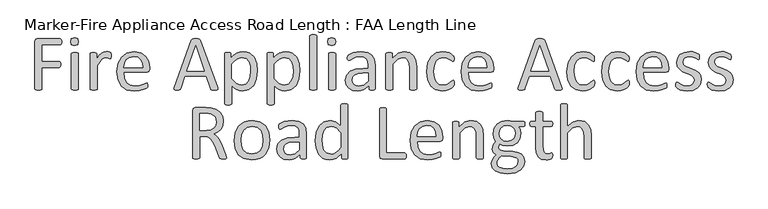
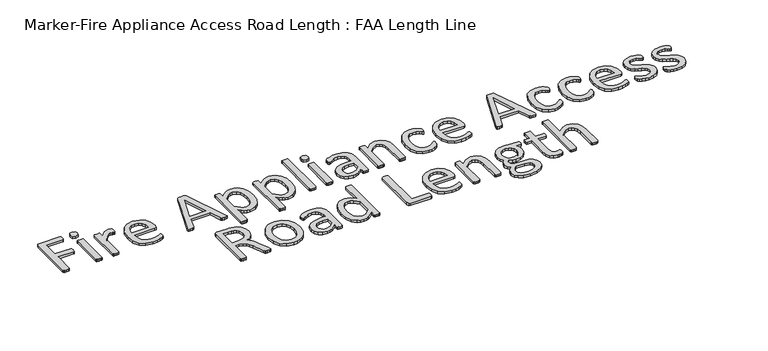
"""IFC4 building model written with IfcOpenShell, lengths in millimetres: proxy geometry, Marker-Fire Appliance Access Road Length : FAA Length Line."""

from ifc_helpers import new_model, si_unit, origin, origin_with_axes, place, context, project, spatial, polyline, outline, extrude, source, transform, mapped, element, save


def marker_fire_appliance_access_road_length_faa_length_line_315c61b4(model_context):
    return source(origin(), model_context, "Body", "SweptSolid", [
        extrude(outline(polyline([(3062.6370513, 223.7082635), (3062.3354764, 218.4910177), (3061.2799642, 214.9324338), (3059.5308298, 212.9420395), (3057.449963, 212.3087322), (2985.433876, 212.3087322), (2985.433876, 146.6860331), (3053.4691742, 146.6860331), (3055.5500411, 146.1130408), (3057.2991755, 144.2432764), (3058.3546877, 140.775165), (3058.6562626, 135.1658718), (3058.3546877, 129.9184685), (3057.2991755, 126.3598846), (3055.5500411, 124.2488603), (3053.4691742, 123.5250805), (2985.433876, 123.5250805), (2985.433876, 39.6872573), (2984.8005687, 37.6063905), (2982.5990719, 36.0683585), (2978.5278107, 35.1334763), (2971.9233203, 34.7414289), (2965.4696174, 35.1334763), (2961.2475687, 36.0683585), (2959.0460719, 37.6063905), (2958.4127646, 39.6872573), (2958.4127646, 224.6733032), (2961.5491436, 233.087243), (2968.2441065, 235.4696848), (3057.449963, 235.4696848), (3059.4705148, 234.8363775), (3061.2498068, 232.7856681), (3062.3354764, 229.0461393), (3062.6370513, 223.7082635)])), origin_with_axes(), (0.0, 0.0, 1.0), 10.0),
        extrude(outline(polyline([(3128.2597503, 224.0701534), (3124.9424264, 211.7357399), (3112.6381703, 208.4485734), (3100.6354892, 211.6452674), (3097.3784802, 223.7082635), (3100.6958042, 236.0426771), (3113.0000602, 239.3298435), (3125.0027414, 236.1331496), (3128.2597503, 224.0701534)])), origin_with_axes(), (0.0, 0.0, 1.0), 10.0),
        extrude(outline(polyline([(3128.2597503, 39.4459974), (3127.5962856, 37.3952881), (3125.4551037, 35.9477285), (3121.3838425, 35.0430038), (3114.6888797, 34.7414289), (3108.1145468, 35.0430038), (3103.9528131, 35.9477285), (3101.8116313, 37.3952881), (3101.238639, 39.4459974), (3101.238639, 176.7228935), (3101.8116313, 178.6831304), (3103.9528131, 180.2211624), (3108.1145468, 181.1258871), (3114.6888797, 181.427462), (3121.3838425, 181.1258871), (3125.4551037, 180.2211624), (3127.5962856, 178.6831304), (3128.2597503, 176.7228935), (3128.2597503, 39.4459974)])), origin_with_axes(), (0.0, 0.0, 1.0), 10.0),
        extrude(outline(polyline([(3255.6449896, 169.8469857), (3255.4942022, 164.3583225), (3254.8910524, 160.7997386), (3253.7752252, 158.7791868), (3251.9054608, 158.0855645), (3248.9801843, 158.7791868), (3245.089868, 160.1664313), (3240.2345121, 161.4933609), (3234.4141164, 162.1266682), (3227.0556888, 160.4680062), (3219.4861587, 155.039658), (3211.1928488, 145.0273712), (3201.6027669, 129.7375235), (3201.6027669, 39.4459974), (3200.9393021, 37.3952881), (3198.7981203, 35.9477285), (3194.7268591, 35.0430038), (3188.0318962, 34.7414289), (3181.4575633, 35.0430038), (3177.2958297, 35.9477285), (3175.1546479, 37.3952881), (3174.5816555, 39.4459974), (3174.5816555, 176.7228935), (3175.0641754, 178.7736029), (3177.0244123, 180.2814774), (3180.7940986, 181.1862021), (3186.8859116, 181.427462), (3192.8570947, 181.1862021), (3196.5363085, 180.2814774), (3198.4362304, 178.7736029), (3199.0092227, 176.7228935), (3199.0092227, 156.6983199), (3209.4437144, 170.9929704), (3218.7020639, 179.7084851), (3227.3271062, 184.0813212), (3235.9823059, 185.2876208), (3240.3852995, 185.0765184), (3245.5723879, 184.2622661), (3250.4579013, 182.9051791), (3253.5339653, 181.427462), (3254.7402649, 180.0402175), (3255.2830998, 178.3212405), (3255.5846747, 175.275334), (3255.6449896, 169.8469857)])), origin_with_axes(), (0.0, 0.0, 1.0), 10.0),
        extrude(outline(polyline([(3406.1911815, 115.2619282), (3403.20559, 106.7575159), (3396.3598397, 104.2242867), (3305.8270536, 104.2242867), (3308.0888654, 81.9077438), (3315.5980805, 64.8989193), (3329.2895811, 53.9819078), (3349.9173045, 50.182064), (3367.0467591, 51.9613559), (3380.0747949, 55.9723021), (3389.0918845, 59.9832483), (3394.4297603, 61.7625403), (3396.2995247, 61.2498629), (3397.5962968, 59.7419884), (3398.2597616, 56.9373418), (3398.470864, 52.5343482), (3398.3200766, 49.3074967), (3397.9280292, 46.86474), (3397.1740919, 44.9045032), (3395.8170049, 43.2458412), (3390.9013339, 40.3205646), (3380.3160548, 36.1588309), (3365.2373096, 32.5097746), (3346.9618705, 30.8812701), (3317.4980024, 35.7064686), (3296.2369717, 50.061434), (3283.2089358, 73.9763239), (3278.8059422, 107.3606657), (3283.4200383, 139.9307553), (3296.7194915, 164.4186375), (3317.7091048, 179.88943), (3345.273051, 185.2876208), (3373.0179421, 180.070375), (3391.8663736, 166.0169845), (3402.7230702, 145.2987886), (3406.1911815, 119.9061817), (3406.1911815, 115.2619282)]), holes=[polyline([(3379.1700702, 123.5250805), (3377.2173727, 141.2350668), (3370.5148704, 154.6777681), (3359.2284297, 163.1595622), (3343.5239166, 165.986827), (3327.4499742, 162.4885581), (3315.8996554, 153.1698936), (3308.6920152, 139.6291804), (3305.8270536, 123.5250805), (3379.1700702, 123.5250805)])]), origin_with_axes(), (0.0, 0.0, 1.0), 10.0),
        extrude(outline(polyline([(3671.3358368, 45.1759206), (3672.6326089, 39.6872573), (3671.4866243, 36.4604059), (3667.3852056, 35.0430038), (3659.7553605, 34.7414289), (3652.0652005, 34.9826888), (3647.7526794, 35.7667836), (3645.6114976, 37.2445006), (3644.2544105, 39.5666274), (3627.124956, 88.7836516), (3543.9505975, 88.7836516), (3527.6052378, 40.2300921), (3526.3386232, 37.8174929), (3524.1069689, 36.0683585), (3519.9452352, 35.0430038), (3512.8883825, 34.7414289), (3505.5601123, 35.1334763), (3501.5491661, 36.6111933), (3500.4634964, 39.8078873), (3501.790426, 45.2965505), (3568.8606846, 229.9810215), (3570.4590316, 232.7253531), (3573.4144656, 234.3840151), (3578.360294, 235.2284248), (3585.9901391, 235.4696848), (3594.1929765, 235.2284248), (3599.4705373, 234.3840151), (3602.5466013, 232.6650382), (3604.2655783, 229.8603916), (3671.3358368, 45.1759206)]), holes=[polyline([(3585.2663593, 208.4485734), (3550.6455604, 108.0844455), (3620.1887332, 108.0844455), (3585.2663593, 208.4485734)])]), origin_with_axes(), (0.0, 0.0, 1.0), 10.0),
        extrude(outline(polyline([(3826.9484871, 110.1954698), (3823.0883283, 77.1127029), (3811.749112, 52.2026158), (3793.2022554, 36.4302484), (3767.900121, 30.8812701), (3756.7116921, 32.1177272), (3746.6390903, 36.038201), (3736.8680634, 42.7633213), (3726.5843592, 52.2930883), (3726.5843592, -18.1548092), (3725.9208944, -20.356306), (3723.7797126, -21.9244955), (3719.7084514, -22.8593777), (3713.0134885, -23.1609526), (3706.4391556, -22.8593777), (3702.2774219, -21.9244955), (3700.1362401, -20.356306), (3699.5632478, -18.2151242), (3699.5632478, 176.6022636), (3700.0457677, 178.8640754), (3702.0060045, 180.3417924), (3705.7756908, 181.1862021), (3711.384984, 181.427462), (3717.0244347, 181.2163596), (3720.7036486, 180.4322649), (3722.7543579, 179.0450203), (3723.3273502, 176.9038385), (3723.3273502, 159.3521791), (3735.2998739, 170.7517104), (3746.9105077, 178.8037604), (3758.9131889, 183.6591163), (3771.8809097, 185.2876208), (3785.6327253, 183.8023644), (3797.2132016, 179.3465952), (3814.2823412, 163.1218654), (3823.9025806, 139.176818), (3826.9484871, 110.1954698)]), holes=[polyline([(3799.9273757, 107.2400357), (3798.3591862, 127.6868142), (3792.9609955, 145.2384736), (3782.6772913, 157.5125722), (3766.6335064, 162.1266682), (3757.1640544, 160.7092662), (3747.7247599, 156.1856426), (3737.6823156, 148.0431202), (3726.5843592, 135.6483917), (3726.5843592, 79.7364045), (3745.9153105, 60.6467131), (3755.2867506, 55.6933453), (3765.1256319, 54.0422227), (3781.1091018, 58.6563188), (3791.9054833, 70.9304173), (3797.9671389, 88.0900294), (3799.9273757, 107.2400357)])]), origin_with_axes(), (0.0, 0.0, 1.0), 10.0),
        extrude(outline(polyline([(3992.9353141, 110.1954698), (3989.0751553, 77.1127029), (3977.7359389, 52.2026158), (3959.1890824, 36.4302484), (3933.8869479, 30.8812701), (3922.698519, 32.1177272), (3912.6259172, 36.038201), (3902.8548904, 42.7633213), (3892.5711861, 52.2930883), (3892.5711861, -18.1548092), (3891.9077214, -20.356306), (3889.7665395, -21.9244955), (3885.6952783, -22.8593777), (3879.0003155, -23.1609526), (3872.4259826, -22.8593777), (3868.2642489, -21.9244955), (3866.1230671, -20.356306), (3865.5500748, -18.2151242), (3865.5500748, 176.6022636), (3866.0325946, 178.8640754), (3867.9928315, 180.3417924), (3871.7625178, 181.1862021), (3877.371811, 181.427462), (3883.0112617, 181.2163596), (3886.6904755, 180.4322649), (3888.7411849, 179.0450203), (3889.3141772, 176.9038385), (3889.3141772, 159.3521791), (3901.2867009, 170.7517104), (3912.8973347, 178.8037604), (3924.9000158, 183.6591163), (3937.8677367, 185.2876208), (3951.6195523, 183.8023644), (3963.2000286, 179.3465952), (3980.2691681, 163.1218654), (3989.8894076, 139.176818), (3992.9353141, 110.1954698)]), holes=[polyline([(3965.9142027, 107.2400357), (3964.3460132, 127.6868142), (3958.9478224, 145.2384736), (3948.6641182, 157.5125722), (3932.6203334, 162.1266682), (3923.1508814, 160.7092662), (3913.7115869, 156.1856426), (3903.6691426, 148.0431202), (3892.5711861, 135.6483917), (3892.5711861, 79.7364045), (3911.9021375, 60.6467131), (3921.2735776, 55.6933453), (3931.1124588, 54.0422227), (3947.0959287, 58.6563188), (3957.8923103, 70.9304173), (3963.9539658, 88.0900294), (3965.9142027, 107.2400357)])]), origin_with_axes(), (0.0, 0.0, 1.0), 10.0),
        extrude(outline(polyline([(4058.5580131, 39.5063124), (4057.8945483, 37.455603), (4055.7533665, 35.977886), (4051.6821053, 35.0430038), (4044.9871425, 34.7414289), (4038.4128096, 35.0430038), (4034.2510759, 35.977886), (4032.1098941, 37.455603), (4031.5369017, 39.5063124), (4031.5369017, 245.9644914), (4032.1098941, 248.1358307), (4034.2510759, 249.6738627), (4038.4128096, 250.6087449), (4044.9871425, 250.9103198), (4051.6821053, 250.6087449), (4055.7533665, 249.6738627), (4057.8945483, 248.1358307), (4058.5580131, 245.9644914), (4058.5580131, 39.5063124)])), origin_with_axes(), (0.0, 0.0, 1.0), 10.0),
        extrude(outline(polyline([(4131.9010297, 224.0701534), (4128.5837057, 211.7357399), (4116.2794497, 208.4485734), (4104.2767685, 211.6452674), (4101.0197595, 223.7082635), (4104.3370835, 236.0426771), (4116.6413396, 239.3298435), (4128.6440207, 236.1331496), (4131.9010297, 224.0701534)])), origin_with_axes(), (0.0, 0.0, 1.0), 10.0),
        extrude(outline(polyline([(4131.9010297, 39.4459974), (4131.2375649, 37.3952881), (4129.0963831, 35.9477285), (4125.0251219, 35.0430038), (4118.330159, 34.7414289), (4111.7558261, 35.0430038), (4107.5940924, 35.9477285), (4105.4529106, 37.3952881), (4104.8799183, 39.4459974), (4104.8799183, 176.7228935), (4105.4529106, 178.6831304), (4107.5940924, 180.2211624), (4111.7558261, 181.1258871), (4118.330159, 181.427462), (4125.0251219, 181.1258871), (4129.0963831, 180.2211624), (4131.2375649, 178.6831304), (4131.9010297, 176.7228935), (4131.9010297, 39.4459974)])), origin_with_axes(), (0.0, 0.0, 1.0), 10.0),
        extrude(outline(polyline([(4286.3073803, 39.3856824), (4284.9804508, 36.5810358), (4281.3615519, 35.1937913), (4274.6062741, 34.7414289), (4267.7605238, 35.1937913), (4264.0511525, 36.5810358), (4262.9051678, 39.3856824), (4262.9051678, 53.258128), (4242.5790193, 37.2143431), (4231.0287005, 32.4645384), (4218.8149169, 30.8812701), (4198.8808158, 33.7462317), (4183.7115981, 42.0395416), (4173.9707287, 55.3691523), (4170.5026173, 73.3430166), (4175.2976583, 93.789795), (4189.0494739, 108.2050754), (4210.9739694, 116.7999602), (4240.1664201, 119.6649218), (4259.286269, 119.6649218), (4259.286269, 131.1850831), (4257.5974495, 146.2638283), (4252.1691013, 157.1808398), (4242.4885468, 163.7551727), (4227.862164, 165.986827), (4211.1247569, 163.5742277), (4198.157036, 158.2665094), (4188.8383715, 152.9587911), (4183.2893933, 150.5461919), (4181.118054, 151.1794992), (4179.519707, 153.1095786), (4178.5245098, 156.4269025), (4178.2229349, 160.8600536), (4178.7657697, 167.1931266), (4181.4196289, 171.6262777), (4188.6574265, 176.1499012), (4200.4791628, 180.6132098), (4215.1055456, 183.9606912), (4231.119173, 185.2876208), (4256.7530398, 181.8798244), (4273.8523368, 171.9278526), (4283.3519463, 155.6729653), (4286.3073803, 132.9945325), (4286.3073803, 39.3856824)]), holes=[polyline([(4259.286269, 100.3641279), (4237.8141358, 100.3641279), (4219.9005866, 98.584836), (4207.2645981, 93.3374327), (4199.876013, 85.0139653), (4197.5237287, 73.8255364), (4199.2125482, 64.084667), (4204.2790066, 56.5754519), (4212.3913715, 51.780411), (4223.2179105, 50.182064), (4241.5536646, 55.2786798), (4259.286269, 70.8701024), (4259.286269, 100.3641279)])]), origin_with_axes(), (0.0, 0.0, 1.0), 10.0),
        extrude(outline(polyline([(4448.4340486, 39.5063124), (4447.7705838, 37.455603), (4445.6294019, 35.977886), (4441.5581407, 35.0430038), (4434.9838078, 34.7414289), (4428.288845, 35.0430038), (4424.2175838, 35.9477285), (4422.076402, 37.3952881), (4421.4129372, 39.5063124), (4421.4129372, 120.0871266), (4419.6336453, 139.0260306), (4414.4767144, 151.4207591), (4405.7008847, 159.3823366), (4393.2458412, 162.1266682), (4374.9402445, 155.4015478), (4355.7902382, 135.6483917), (4355.7902382, 39.5063124), (4355.1267734, 37.3952881), (4352.9855915, 35.9477285), (4348.9143303, 35.0430038), (4342.2193675, 34.7414289), (4335.6450346, 35.0430038), (4331.4833009, 35.9477285), (4329.3421191, 37.3952881), (4328.7691268, 39.4459974), (4328.7691268, 176.7228935), (4329.2516466, 178.7736029), (4331.2118835, 180.2814774), (4334.9815698, 181.1862021), (4341.0733829, 181.427462), (4347.0445659, 181.1862021), (4350.7237798, 180.2814774), (4352.6237017, 178.7736029), (4353.196694, 176.7228935), (4353.196694, 158.5680843), (4376.2671741, 178.8640754), (4399.4582842, 185.2876208), (4422.4986068, 180.5830523), (4437.637667, 168.0073788), (4445.9309769, 149.5811522), (4448.4340486, 124.1885453), (4448.4340486, 39.5063124)])), origin_with_axes(), (0.0, 0.0, 1.0), 10.0),
        extrude(outline(polyline([(4595.1200817, 62.48632), (4594.9692942, 58.2642714), (4594.4264594, 55.2485223), (4593.5217347, 52.8057656), (4591.1091355, 49.1868668), (4584.625275, 43.3061562), (4574.3415708, 37.0635557), (4561.9468423, 32.6002471), (4548.0743967, 30.8812701), (4521.8976951, 35.8874135), (4502.8080037, 50.5137964), (4491.0767399, 74.0969538), (4487.0356362, 106.335311), (4491.9814646, 142.0719371), (4505.5221778, 166.5296618), (4525.7578538, 180.6735248), (4550.9695158, 185.2876208), (4563.6959767, 183.9305337), (4575.0351931, 180.3719499), (4584.2633852, 175.3054915), (4590.1139383, 170.3898206), (4592.61701, 167.1629691), (4593.7629946, 164.5995824), (4594.3661444, 161.4330459), (4594.5169319, 156.9998948), (4593.1598448, 148.9780024), (4589.8726784, 146.6860331), (4584.6554325, 149.0986324), (4577.2065324, 154.4063507), (4566.2593634, 159.714069), (4551.1504607, 162.1266682), (4535.2800814, 158.6283993), (4523.616672, 148.1335927), (4516.4467287, 130.9739807), (4514.0567476, 107.4812957), (4516.5296618, 84.1393981), (4523.8277745, 67.3718335), (4535.6796682, 57.3293892), (4551.7536105, 54.0422227), (4566.8021982, 57.0881293), (4578.0207846, 63.7830921), (4586.0125196, 70.3875825), (4591.078978, 73.3430166), (4592.8582699, 72.7700243), (4594.155042, 70.8399449), (4594.9089793, 67.401991), (4595.1200817, 62.48632)])), origin_with_axes(), (0.0, 0.0, 1.0), 10.0),
        extrude(outline(polyline([(4749.5264324, 115.2619282), (4746.5408408, 106.7575159), (4739.6950905, 104.2242867), (4649.1623044, 104.2242867), (4651.4241162, 81.9077438), (4658.9333313, 64.8989193), (4672.6248319, 53.9819078), (4693.2525553, 50.182064), (4710.3820099, 51.9613559), (4723.4100457, 55.9723021), (4732.4271353, 59.9832483), (4737.7650111, 61.7625403), (4739.6347755, 61.2498629), (4740.9315476, 59.7419884), (4741.5950124, 56.9373418), (4741.8061148, 52.5343482), (4741.6553274, 49.3074967), (4741.26328, 46.86474), (4740.5093427, 44.9045032), (4739.1522557, 43.2458412), (4734.2365847, 40.3205646), (4723.6513056, 36.1588309), (4708.5725604, 32.5097746), (4690.2971213, 30.8812701), (4660.8332532, 35.7064686), (4639.5722225, 50.061434), (4626.5441866, 73.9763239), (4622.1411931, 107.3606657), (4626.7552891, 139.9307553), (4640.0547423, 164.4186375), (4661.0443556, 179.88943), (4688.6083018, 185.2876208), (4716.353193, 180.070375), (4735.2016244, 166.0169845), (4746.058321, 145.2987886), (4749.5264324, 119.9061817), (4749.5264324, 115.2619282)]), holes=[polyline([(4722.505321, 123.5250805), (4720.5526235, 141.2350668), (4713.8501213, 154.6777681), (4702.5636805, 163.1595622), (4686.8591674, 165.986827), (4670.785225, 162.4885581), (4659.2349062, 153.1698936), (4652.027266, 139.6291804), (4649.1623044, 123.5250805), (4722.505321, 123.5250805)])]), origin_with_axes(), (0.0, 0.0, 1.0), 10.0),
        extrude(outline(polyline([(5014.6710876, 45.1759206), (5015.9678597, 39.6872573), (5014.8218751, 36.4604059), (5010.7204564, 35.0430038), (5003.0906113, 34.7414289), (4995.4004513, 34.9826888), (4991.0879302, 35.7667836), (4988.9467484, 37.2445006), (4987.5896613, 39.5666274), (4970.4602068, 88.7836516), (4887.2858483, 88.7836516), (4870.9404886, 40.2300921), (4869.673874, 37.8174929), (4867.4422197, 36.0683585), (4863.280486, 35.0430038), (4856.2236333, 34.7414289), (4848.8953631, 35.1334763), (4844.8844169, 36.6111933), (4843.7987472, 39.8078873), (4845.1256768, 45.2965505), (4912.1959354, 229.9810215), (4913.7942824, 232.7253531), (4916.7497164, 234.3840151), (4921.6955448, 235.2284248), (4929.3253899, 235.4696848), (4937.5282273, 235.2284248), (4942.8057881, 234.3840151), (4945.8818521, 232.6650382), (4947.6008291, 229.8603916), (5014.6710876, 45.1759206)]), holes=[polyline([(4928.6016101, 208.4485734), (4893.9808112, 108.0844455), (4963.523984, 108.0844455), (4928.6016101, 208.4485734)])]), origin_with_axes(), (0.0, 0.0, 1.0), 10.0),
        extrude(outline(polyline([(5143.2626266, 62.48632), (5143.1118391, 58.2642714), (5142.5690043, 55.2485223), (5141.6642796, 52.8057656), (5139.2516803, 49.1868668), (5132.7678199, 43.3061562), (5122.4841157, 37.0635557), (5110.0893872, 32.6002471), (5096.2169416, 30.8812701), (5070.0402399, 35.8874135), (5050.9505485, 50.5137964), (5039.2192848, 74.0969538), (5035.1781811, 106.335311), (5040.1240095, 142.0719371), (5053.6647227, 166.5296618), (5073.9003987, 180.6735248), (5099.1120607, 185.2876208), (5111.8385216, 183.9305337), (5123.177738, 180.3719499), (5132.40593, 175.3054915), (5138.2564832, 170.3898206), (5140.7595549, 167.1629691), (5141.9055395, 164.5995824), (5142.5086893, 161.4330459), (5142.6594767, 156.9998948), (5141.3023897, 148.9780024), (5138.0152232, 146.6860331), (5132.7979774, 149.0986324), (5125.3490773, 154.4063507), (5114.4019083, 159.714069), (5099.2930056, 162.1266682), (5083.4226263, 158.6283993), (5071.7592169, 148.1335927), (5064.5892736, 130.9739807), (5062.1992925, 107.4812957), (5064.6722067, 84.1393981), (5071.9703193, 67.3718335), (5083.822213, 57.3293892), (5099.8961554, 54.0422227), (5114.9447431, 57.0881293), (5126.1633295, 63.7830921), (5134.1550645, 70.3875825), (5139.2215228, 73.3430166), (5141.0008148, 72.7700243), (5142.2975869, 70.8399449), (5143.0515241, 67.401991), (5143.2626266, 62.48632)])), origin_with_axes(), (0.0, 0.0, 1.0), 10.0),
        extrude(outline(polyline([(5278.3681834, 62.48632), (5278.2173959, 58.2642714), (5277.6745611, 55.2485223), (5276.7698364, 52.8057656), (5274.3572372, 49.1868668), (5267.8733767, 43.3061562), (5257.5896725, 37.0635557), (5245.194944, 32.6002471), (5231.3224984, 30.8812701), (5205.1457968, 35.8874135), (5186.0561054, 50.5137964), (5174.3248416, 74.0969538), (5170.2837379, 106.335311), (5175.2295663, 142.0719371), (5188.7702795, 166.5296618), (5209.0059555, 180.6735248), (5234.2176175, 185.2876208), (5246.9440784, 183.9305337), (5258.2832948, 180.3719499), (5267.5114869, 175.3054915), (5273.36204, 170.3898206), (5275.8651117, 167.1629691), (5277.0110963, 164.5995824), (5277.6142461, 161.4330459), (5277.7650336, 156.9998948), (5276.4079465, 148.9780024), (5273.1207801, 146.6860331), (5267.9035342, 149.0986324), (5260.4546341, 154.4063507), (5249.5074651, 159.714069), (5234.3985624, 162.1266682), (5218.5281831, 158.6283993), (5206.8647737, 148.1335927), (5199.6948304, 130.9739807), (5197.3048493, 107.4812957), (5199.7777635, 84.1393981), (5207.0758762, 67.3718335), (5218.9277699, 57.3293892), (5235.0017122, 54.0422227), (5250.0502999, 57.0881293), (5261.2688864, 63.7830921), (5269.2606213, 70.3875825), (5274.3270797, 73.3430166), (5276.1063716, 72.7700243), (5277.4031437, 70.8399449), (5278.157081, 67.401991), (5278.3681834, 62.48632)])), origin_with_axes(), (0.0, 0.0, 1.0), 10.0),
        extrude(outline(polyline([(5432.7745341, 115.2619282), (5429.7889425, 106.7575159), (5422.9431922, 104.2242867), (5332.4104061, 104.2242867), (5334.6722179, 81.9077438), (5342.181433, 64.8989193), (5355.8729336, 53.9819078), (5376.500657, 50.182064), (5393.6301116, 51.9613559), (5406.6581474, 55.9723021), (5415.675237, 59.9832483), (5421.0131128, 61.7625403), (5422.8828772, 61.2498629), (5424.1796493, 59.7419884), (5424.8431141, 56.9373418), (5425.0542165, 52.5343482), (5424.9034291, 49.3074967), (5424.5113817, 46.86474), (5423.7574444, 44.9045032), (5422.4003574, 43.2458412), (5417.4846864, 40.3205646), (5406.8994073, 36.1588309), (5391.8206621, 32.5097746), (5373.545223, 30.8812701), (5344.0813549, 35.7064686), (5322.8203242, 50.061434), (5309.7922883, 73.9763239), (5305.3892948, 107.3606657), (5310.0033908, 139.9307553), (5323.302844, 164.4186375), (5344.2924573, 179.88943), (5371.8564035, 185.2876208), (5399.6012947, 180.070375), (5418.4497261, 166.0169845), (5429.3064227, 145.2987886), (5432.7745341, 119.9061817), (5432.7745341, 115.2619282)]), holes=[polyline([(5405.7534227, 123.5250805), (5403.8007252, 141.2350668), (5397.098223, 154.6777681), (5385.8117822, 163.1595622), (5370.1072691, 165.986827), (5354.0333267, 162.4885581), (5342.4830079, 153.1698936), (5335.2753677, 139.6291804), (5332.4104061, 123.5250805), (5405.7534227, 123.5250805)])]), origin_with_axes(), (0.0, 0.0, 1.0), 10.0),
        extrude(outline(polyline([(5560.1597734, 75.9968757), (5556.1488271, 56.7865544), (5544.7191383, 42.5823764), (5527.0770064, 33.8367042), (5504.5493611, 30.8812701), (5490.1039232, 32.2685147), (5477.8298247, 35.7969411), (5468.6317901, 40.2602496), (5463.1129694, 44.4521408), (5460.5797402, 48.8852919), (5459.7956454, 55.9119871), (5460.0972203, 60.4657682), (5460.8813151, 63.4513597), (5462.2082447, 65.1100217), (5464.138324, 65.622699), (5469.1444674, 63.2100998), (5477.3473048, 57.9023815), (5488.8976236, 52.5946632), (5504.1874712, 50.182064), (5515.9488925, 51.659781), (5525.0866121, 56.0326171), (5531.0577952, 63.3910447), (5533.138662, 73.9461664), (5530.1530704, 83.9282957), (5522.2216505, 91.1359359), (5511.1538515, 96.6849141), (5498.4877056, 101.7513725), (5485.7310871, 107.7527131), (5474.5728157, 115.9555505), (5466.6413957, 127.5058693), (5463.6558042, 143.6099691), (5466.8524982, 159.4426516), (5476.4425801, 172.7119473), (5492.42605, 181.8496669), (5514.8632228, 185.2876208), (5526.0818092, 184.2622661), (5536.214726, 181.668722), (5543.9350435, 178.291083), (5548.760242, 175.0943891), (5550.9315813, 172.8024198), (5551.7156761, 170.8120254), (5552.1981959, 168.0676938), (5552.4394558, 164.0567476), (5552.1981959, 159.6839115), (5551.4141011, 156.638005), (5550.0570141, 154.919028), (5548.2777222, 154.4063507), (5544.1159885, 156.2459576), (5537.0892932, 160.1965888), (5526.9563765, 164.1472201), (5513.6569232, 165.986827), (5501.835187, 164.448795), (5493.4514047, 160.0759589), (5488.5055762, 153.380996), (5486.8167568, 144.9972137), (5490.0134508, 134.7738244), (5498.3670756, 127.5058693), (5510.0983393, 121.8965761), (5523.4882651, 116.7698027), (5536.9686633, 110.8287771), (5548.760242, 102.8671996), (5557.0233944, 91.6184557), (5560.1597734, 75.9968757)])), origin_with_axes(), (0.0, 0.0, 1.0), 10.0),
        extrude(outline(polyline([(4550.7282559, -154.2209296), (4547.7426643, -162.7253419), (4540.896914, -165.2585711), (4450.3641279, -165.2585711), (4452.6259397, -187.575114), (4460.1351548, -204.5839385), (4473.8266554, -215.50095), (4494.4543788, -219.3007938), (4511.5838334, -217.5215019), (4524.6118692, -213.5105557), (4533.6289588, -209.4996095), (4538.9668346, -207.7203175), (4540.836599, -208.2329949), (4542.1333711, -209.7408694), (4542.7968359, -212.545516), (4543.0079383, -216.9485096), (4542.8571509, -220.1753611), (4542.4651035, -222.6181178), (4541.7111662, -224.5783546), (4540.3540792, -226.2370166), (4535.4384083, -229.1622932), (4524.8531291, -233.3240269), (4509.774384, -236.9730832), (4491.4989448, -238.6015877), (4462.0350767, -233.7763892), (4440.774046, -219.4214238), (4427.7460102, -195.5065339), (4423.3430166, -162.1221921), (4427.9571126, -129.5521025), (4441.2565658, -105.0642203), (4462.2461791, -89.5934278), (4489.8101253, -84.195237), (4517.5550165, -89.4124828), (4536.4034479, -103.4658733), (4547.2601445, -124.1840692), (4550.7282559, -149.5766761), (4550.7282559, -154.2209296)]), holes=[polyline([(4523.7071445, -145.9577773), (4521.754447, -128.247791), (4515.0519448, -114.8050897), (4503.765504, -106.3232956), (4488.0609909, -103.4960308), (4471.9870485, -106.9942997), (4460.4367297, -116.3129642), (4453.2290895, -129.8536774), (4450.3641279, -145.9577773), (4523.7071445, -145.9577773)])]), origin_with_axes(), (0.0, 0.0, 1.0), 10.0),
        extrude(outline(polyline([(4708.9947653, -229.9765454), (4708.3313005, -232.0272548), (4706.1901187, -233.5049718), (4702.1188575, -234.439854), (4695.5445246, -234.7414289), (4688.8495617, -234.439854), (4684.7783005, -233.5351293), (4682.6371187, -232.0875697), (4681.9736539, -229.9765454), (4681.9736539, -149.3957312), (4680.194362, -130.4568272), (4675.0374312, -118.0620987), (4666.2616015, -110.1005212), (4653.8065579, -107.3561896), (4635.5009613, -114.08131), (4616.3509549, -133.8344661), (4616.3509549, -229.9765454), (4615.6874901, -232.0875697), (4613.5463083, -233.5351293), (4609.4750471, -234.439854), (4602.7800842, -234.7414289), (4596.2057513, -234.439854), (4592.0440177, -233.5351293), (4589.9028359, -232.0875697), (4589.3298435, -230.0368604), (4589.3298435, -92.7599643), (4589.8123634, -90.7092549), (4591.7726003, -89.2013804), (4595.5422865, -88.2966557), (4601.6340996, -88.0553958), (4607.6052827, -88.2966557), (4611.2844965, -89.2013804), (4613.1844184, -90.7092549), (4613.7574107, -92.7599643), (4613.7574107, -110.9147735), (4636.8278909, -90.6187824), (4660.0190009, -84.195237), (4683.0593236, -88.8998055), (4698.1983838, -101.475479), (4706.4916936, -119.9017056), (4708.9947653, -145.2943125), (4708.9947653, -229.9765454)])), origin_with_axes(), (0.0, 0.0, 1.0), 10.0),
        extrude(outline(polyline([(3706.6201006, -229.8559155), (3706.1677382, -231.9669398), (3704.1773438, -233.5049718), (3699.8346652, -234.439854), (3692.3857651, -234.7414289), (3685.8415897, -234.439854), (3681.740171, -233.4446568), (3679.3577293, -231.5447349), (3677.9101697, -228.4686709), (3659.5141006, -182.0261357), (3652.8492952, -167.4902254), (3644.7670878, -156.0605365), (3633.7596038, -148.6116364), (3618.4999137, -145.9577773), (3601.1291993, -145.9577773), (3601.1291993, -229.8559155), (3600.435577, -231.9970973), (3598.2340802, -233.4446568), (3594.1326615, -234.3493815), (3587.6186436, -234.7414289), (3581.1046257, -234.3493815), (3576.942892, -233.4144993), (3574.7413952, -231.9669398), (3574.1080879, -229.7956005), (3574.1080879, -44.8095546), (3577.2143094, -36.3956148), (3583.8791148, -34.013173), (3625.7377114, -34.013173), (3638.1022825, -34.4052204), (3647.0288996, -35.2797876), (3667.2042607, -41.6128606), (3681.921116, -52.6505021), (3690.8175756, -67.9705072), (3693.7730097, -86.9697261), (3691.149308, -105.0642203), (3683.5496204, -119.2080833), (3671.6374117, -129.8235199), (3656.0761467, -137.453365), (3665.0630788, -142.9118707), (3672.5722939, -150.8131332), (3679.1164693, -161.3984123), (3685.3289124, -174.908968), (3703.2424616, -218.637329), (3706.0169508, -226.3576466), (3706.6201006, -229.8559155)]), holes=[polyline([(3666.7518983, -89.8648452), (3661.5949674, -70.5037364), (3654.6813628, -63.7032223), (3644.2544105, -59.104205), (3635.6896832, -57.626488), (3623.1441672, -57.1741256), (3601.1291993, -57.1741256), (3601.1291993, -122.7968247), (3626.6424361, -122.7968247), (3644.4956704, -120.3239105), (3657.0411864, -113.3876877), (3664.399614, -102.9230385), (3666.7518983, -89.8648452)])]), origin_with_axes(), (0.0, 0.0, 1.0), 10.0),
        extrude(outline(polyline([(5683.6848539, 75.9968757), (5679.6739077, 56.7865544), (5668.2442188, 42.5823764), (5650.602087, 33.8367042), (5628.0744417, 30.8812701), (5613.6290038, 32.2685147), (5601.3549052, 35.7969411), (5592.1568706, 40.2602496), (5586.6380499, 44.4521408), (5584.1048207, 48.8852919), (5583.320726, 55.9119871), (5583.6223009, 60.4657682), (5584.4063956, 63.4513597), (5585.7333252, 65.1100217), (5587.6634046, 65.622699), (5592.669548, 63.2100998), (5600.8723853, 57.9023815), (5612.4227042, 52.5946632), (5627.7125518, 50.182064), (5639.473973, 51.659781), (5648.6116926, 56.0326171), (5654.5828757, 63.3910447), (5656.6637425, 73.9461664), (5653.678151, 83.9282957), (5645.746731, 91.1359359), (5634.678932, 96.6849141), (5622.0127861, 101.7513725), (5609.2561677, 107.7527131), (5598.0978962, 115.9555505), (5590.1664763, 127.5058693), (5587.1808847, 143.6099691), (5590.3775787, 159.4426516), (5599.9676606, 172.7119473), (5615.9511305, 181.8496669), (5638.3883034, 185.2876208), (5649.6068898, 184.2622661), (5659.7398065, 181.668722), (5667.4601241, 178.291083), (5672.2853225, 175.0943891), (5674.4566618, 172.8024198), (5675.2407566, 170.8120254), (5675.7232764, 168.0676938), (5675.9645364, 164.0567476), (5675.7232764, 159.6839115), (5674.9391817, 156.638005), (5673.5820946, 154.919028), (5671.8028027, 154.4063507), (5667.641069, 156.2459576), (5660.6143738, 160.1965888), (5650.481457, 164.1472201), (5637.1820037, 165.986827), (5625.3602675, 164.448795), (5616.9764852, 160.0759589), (5612.0306568, 153.380996), (5610.3418373, 144.9972137), (5613.5385313, 134.7738244), (5621.8921561, 127.5058693), (5633.6234199, 121.8965761), (5647.0133456, 116.7698027), (5660.4937438, 110.8287771), (5672.2853225, 102.8671996), (5680.5484749, 91.6184557), (5683.6848539, 75.9968757)])), origin_with_axes(), (0.0, 0.0, 1.0), 10.0),
        extrude(outline(polyline([(3875.2004717, -159.8905378), (3870.7371631, -191.5257452), (3857.3773949, -216.4358322), (3847.3651081, -225.7469574), (3835.121167, -232.7510345), (3820.6983472, -237.1389494), (3804.1494244, -238.6015877), (3774.2935089, -233.4446568), (3753.0626357, -218.4563841), (3740.3964898, -194.5716517), (3736.2347561, -162.7253419), (3740.6377497, -131.0901345), (3753.9070455, -106.210205), (3763.8816354, -96.9367767), (3776.0728009, -89.9854751), (3790.4805419, -85.6427965), (3807.1048585, -84.195237), (3836.9909314, -89.3521679), (3858.2218046, -104.3404406), (3870.9482656, -128.2251729), (3875.2004717, -159.8905378)]), holes=[polyline([(3848.1793603, -161.6999872), (3846.0984935, -140.7405314), (3839.2527432, -123.430132), (3826.3754948, -111.6687107), (3806.0795038, -107.3561896), (3786.8088674, -111.3068208), (3773.5395717, -122.4650923), (3765.7890967, -139.5342318), (3763.2558675, -161.0968374), (3765.3367343, -182.1769232), (3772.2427996, -199.4270077), (3785.2105204, -211.1281139), (3805.476354, -215.4406351), (3824.6866753, -211.4900038), (3838.0464436, -200.4222049), (3845.7366036, -183.4133803), (3848.1793603, -161.6999872)])]), origin_with_axes(), (0.0, 0.0, 1.0), 10.0),
        extrude(outline(polyline([(4018.0263461, -230.0971754), (4016.6994165, -232.901822), (4013.0805176, -234.2890665), (4006.3252398, -234.7414289), (3999.4794895, -234.2890665), (3995.7701182, -232.901822), (3994.6241335, -230.0971754), (3994.6241335, -216.2247298), (3974.297985, -232.2685147), (3962.7476662, -237.0183194), (3950.5338826, -238.6015877), (3930.5997815, -235.7366261), (3915.4305638, -227.4433162), (3905.6896945, -214.1137055), (3902.2215831, -196.1398412), (3907.016624, -175.6930628), (3920.7684396, -161.2777824), (3942.6929351, -152.6828976), (3971.8853858, -149.817936), (3991.0052347, -149.817936), (3991.0052347, -138.2977747), (3989.3164152, -123.2190295), (3983.888067, -112.302018), (3974.2075126, -105.7276851), (3959.5811297, -103.4960308), (3942.8437226, -105.9086301), (3929.8760017, -111.2163484), (3920.5573372, -116.5240667), (3915.008359, -118.9366659), (3912.8370197, -118.3033586), (3911.2386727, -116.3732792), (3910.2434755, -113.0559553), (3909.9419006, -108.6228042), (3910.4847354, -102.2897312), (3913.1385946, -97.8565801), (3920.3763923, -93.3329566), (3932.1981285, -88.869648), (3946.8245113, -85.5221666), (3962.8381387, -84.195237), (3988.4720055, -87.6030334), (4005.5713025, -97.5550052), (4015.070912, -113.8098925), (4018.0263461, -136.4883253), (4018.0263461, -230.0971754)]), holes=[polyline([(3991.0052347, -169.1187299), (3969.5331016, -169.1187299), (3951.6195523, -170.8980218), (3938.9835638, -176.1454251), (3931.5949787, -184.4688925), (3929.2426944, -195.6573214), (3930.9315139, -205.3981908), (3935.9979723, -212.9074059), (3944.1103372, -217.7024468), (3954.9368762, -219.3007938), (3973.2726304, -214.204178), (3991.0052347, -198.6127554), (3991.0052347, -169.1187299)])]), origin_with_axes(), (0.0, 0.0, 1.0), 10.0),
        extrude(outline(polyline([(4180.1530143, -229.9162304), (4179.5800219, -232.1177272), (4177.6197851, -233.5954443), (4173.9707287, -234.439854), (4168.451908, -234.7414289), (4162.7219848, -234.439854), (4158.982456, -233.6557592), (4156.8714317, -232.2986722), (4156.2079669, -230.2781203), (4156.2079669, -213.1486658), (4133.8009516, -231.8764673), (4121.6399436, -236.9203076), (4108.3781872, -238.6015877), (4094.4152692, -237.1012525), (4082.6840054, -232.6002471), (4065.4640784, -216.3755173), (4055.8136815, -192.30984), (4052.767775, -163.2078618), (4056.5676188, -130.4869847), (4067.7862052, -105.5768977), (4086.1822743, -89.7442152), (4111.5748812, -84.195237), (4133.4993767, -89.5934278), (4153.1319029, -105.4261102), (4153.1319029, -23.5786814), (4153.7048952, -21.467657), (4155.906392, -19.8994675), (4160.0681257, -18.9645853), (4166.4615136, -18.572538), (4173.1564765, -18.9645853), (4177.2277377, -19.8994675), (4179.4292345, -21.4374996), (4180.1530143, -23.5183664), (4180.1530143, -229.9162304)]), holes=[polyline([(4153.1319029, -132.9297414), (4133.7707941, -113.900365), (4124.2259484, -108.9922335), (4114.2890553, -107.3561896), (4098.3055854, -111.9401281), (4087.6298338, -124.0332818), (4081.6586507, -141.0421063), (4079.7888863, -160.3127427), (4081.3570758, -180.6992062), (4086.8155816, -198.3714955), (4097.1294433, -210.7662241), (4113.2637006, -215.4406351), (4122.7331526, -214.083548), (4132.0819746, -209.5900819), (4142.0641039, -201.4475595), (4153.1319029, -189.0829885), (4153.1319029, -132.9297414)])]), origin_with_axes(), (0.0, 0.0, 1.0), 10.0),
        extrude(outline(polyline([(4407.9023815, -223.1006376), (4407.6008066, -228.287726), (4406.6056094, -231.8764673), (4404.8866325, -234.0478066), (4402.4740332, -234.7414289), (4313.6300666, -234.7414289), (4306.8747888, -232.3589872), (4303.6780948, -223.9450473), (4303.6780948, -38.9590015), (4304.3114021, -36.7876621), (4306.5128989, -35.3401026), (4310.7349475, -34.4052204), (4317.1886505, -34.013173), (4323.7026684, -34.4052204), (4327.8644021, -35.3401026), (4330.0658989, -36.7876621), (4330.6992062, -38.9590015), (4330.6992062, -211.5804763), (4402.4740332, -211.5804763), (4404.8866325, -212.2740986), (4406.6056094, -214.2946504), (4407.6008066, -217.7929193), (4407.9023815, -223.1006376)])), origin_with_axes(), (0.0, 0.0, 1.0), 10.0),
        extrude(outline(polyline([(4871.1214335, -97.7661077), (4869.6437165, -105.0943778), (4865.8740302, -107.3561896), (4845.9097716, -107.3561896), (4853.5094591, -119.8413906), (4855.6807984, -134.0154111), (4851.8206397, -155.4875442), (4840.7528407, -171.2900692), (4823.6233862, -181.1515685), (4801.6385757, -184.5593649), (4785.4440034, -182.2975532), (4773.5921097, -176.5977875), (4768.7669112, -182.900703), (4766.8971468, -191.0733829), (4772.0239202, -200.0), (4785.6551058, -203.8601588), (4822.688504, -205.4283483), (4842.1099278, -208.3536248), (4857.3997754, -215.802525), (4867.5025347, -227.6544187), (4871.1214335, -243.969621), (4867.0803298, -262.6371075), (4854.6856013, -278.1983725), (4833.3944131, -288.7836516), (4802.8448753, -292.6438104), (4773.9238421, -289.7486913), (4754.3817883, -281.8474288), (4743.3139893, -269.8749052), (4739.8760354, -254.8263175), (4741.1124925, -244.7838732), (4744.9123363, -235.5556811), (4751.2454093, -227.2020563), (4759.960924, -219.3007938), (4747.7169829, -209.3789795), (4743.7361942, -196.4414161), (4747.8376129, -179.2818041), (4757.9705297, -165.7410909), (4750.3708421, -152.7733701), (4747.596353, -135.2217107), (4751.6072992, -113.779735), (4762.7655706, -97.7359502), (4779.8950251, -87.6935059), (4801.6385757, -84.195237), (4813.4603119, -85.2205917), (4823.7741736, -88.0553958), (4865.8740302, -88.0553958), (4869.7945039, -90.4378375), (4871.1214335, -97.7661077)]), holes=[polyline([(4832.5198458, -134.196356), (4830.4842152, -121.3115683), (4824.3773234, -111.6083957), (4814.5158241, -105.5241221), (4801.2163708, -103.4960308), (4787.7661301, -106.02926), (4778.2363632, -112.9654828), (4772.5969125, -123.1285571), (4770.7573056, -135.1613957), (4772.7929362, -147.7069117), (4778.899828, -157.2366787), (4788.6708548, -163.253098), (4801.6988907, -165.2585711), (4815.4205488, -162.8158144), (4825.0407882, -156.030379), (4830.6802389, -146.0180922), (4832.5198458, -134.196356)]), polyline([(4844.1003221, -244.8140307), (4842.2305577, -236.3171578), (4836.6212645, -230.0067029), (4816.415746, -224.4878822), (4779.7442377, -223.1609526), (4771.4509278, -231.0019001), (4766.3241545, -238.1190678), (4763.7306103, -244.7838732), (4763.036988, -251.5693085), (4765.6305322, -261.0010636), (4773.4111647, -267.8241958), (4785.8360508, -271.9633114), (4802.3623555, -273.3430166), (4822.1456691, -270.9605748), (4834.99276, -264.5973444), (4841.9892978, -255.5199398), (4844.1003221, -244.8140307)])]), origin_with_axes(), (0.0, 0.0, 1.0), 10.0),
        extrude(outline(polyline([(4979.205879, -220.8689833), (4978.6027292, -228.4083559), (4976.7631222, -232.5097746), (4973.0839084, -234.9826888), (4967.5047727, -236.8826107), (4960.8399673, -238.1190678), (4953.8132721, -238.6015877), (4935.4473604, -235.6763111), (4922.9320019, -226.8401664), (4915.8148342, -211.8518937), (4913.5831799, -190.4099181), (4913.5831799, -107.3561896), (4895.2474258, -107.3561896), (4891.7189994, -105.0943778), (4890.4222273, -97.7661077), (4890.7841172, -93.2726416), (4891.7189994, -90.2267351), (4893.2570314, -88.5379156), (4895.3680558, -88.0553958), (4913.5831799, -88.0553958), (4913.5831799, -54.4599515), (4914.1561723, -52.4393996), (4916.2973541, -50.7807377), (4920.4590877, -49.755383), (4927.0334206, -49.4538081), (4933.7283835, -49.755383), (4937.7996447, -50.7807377), (4939.9408265, -52.4393996), (4940.6042913, -54.4599515), (4940.6042913, -88.0553958), (4974.3806805, -88.0553958), (4976.4012324, -88.5379156), (4977.9392644, -90.2267351), (4978.9043041, -93.2726416), (4979.205879, -97.7661077), (4977.8789494, -105.0943778), (4974.3806805, -107.3561896), (4940.6042913, -107.3561896), (4940.6042913, -186.0069245), (4944.6152375, -207.9917349), (4950.2169914, -213.57841), (4959.0003604, -215.4406351), (4965.001701, -214.7470128), (4969.676112, -213.2994533), (4973.2045384, -211.8217362), (4975.82824, -211.0979565), (4978.2408393, -212.9677209), (4978.9043041, -215.9834699), (4979.205879, -220.8689833)])), origin_with_axes(), (0.0, 0.0, 1.0), 10.0),
        extrude(outline(polyline([(5129.7520709, -229.9765454), (5129.0886061, -232.0272548), (5126.9474243, -233.5049718), (5122.8761631, -234.439854), (5116.3018302, -234.7414289), (5109.6068673, -234.439854), (5105.5356061, -233.5351293), (5103.3944243, -232.0875697), (5102.7309595, -229.9765454), (5102.7309595, -149.3957312), (5100.9516676, -130.4568272), (5095.7947367, -118.0620987), (5087.018907, -110.1005212), (5074.5638635, -107.3561896), (5056.2582669, -114.08131), (5037.1082605, -133.8344661), (5037.1082605, -229.9765454), (5036.4447957, -232.0875697), (5034.3036139, -233.5351293), (5030.2323527, -234.439854), (5023.5373898, -234.7414289), (5016.9630569, -234.439854), (5012.8013232, -233.5049718), (5010.6601414, -232.0272548), (5010.0871491, -229.9765454), (5010.0871491, -23.5183664), (5010.6601414, -21.3470271), (5012.8013232, -19.8089951), (5016.9630569, -18.8741129), (5023.5373898, -18.572538), (5030.2323527, -18.8741129), (5034.3036139, -19.8089951), (5036.4447957, -21.3771846), (5037.1082605, -23.5183664), (5037.1082605, -106.9942997), (5058.8216535, -89.8045302), (5080.8366215, -84.195237), (5103.8769441, -88.8998055), (5118.9858468, -101.475479), (5127.2489992, -119.9017056), (5129.7520709, -145.4149424), (5129.7520709, -229.9765454)])), origin_with_axes(), (0.0, 0.0, 1.0), 10.0),
    ])


if __name__ == "__main__":
    model = new_model("IFC4")
    model_context = context("Model", 3, world=origin())
    ifc_project = project(units=[si_unit("LENGTHUNIT", "METRE", prefix="MILLI")], contexts=[model_context])
    site = spatial("IfcSite", under=ifc_project)
    building = spatial("IfcBuilding", under=site)
    placement = place(None, origin())
    marker_fire_appliance_access_road_length_faa_length_line_shape = marker_fire_appliance_access_road_length_faa_length_line_315c61b4(model_context)
    element("IfcBuildingElementProxy", 1, Name="Marker-Fire Appliance Access Road Length : FAA Length Line", ObjectType="Marker-Fire Appliance Access Road Length : FAA Length Line", at=placement, inside=building, context=model_context, shape_type="MappedRepresentation", body=[
        mapped(marker_fire_appliance_access_road_length_faa_length_line_shape, transform((0.0, 0.0, 0.0), x_axis=(1.0, 0.0, 0.0), y_axis=(0.0, 1.0, 0.0), z_axis=(0.0, 0.0, 1.0))),
    ])
    save(model, "model.ifc")
